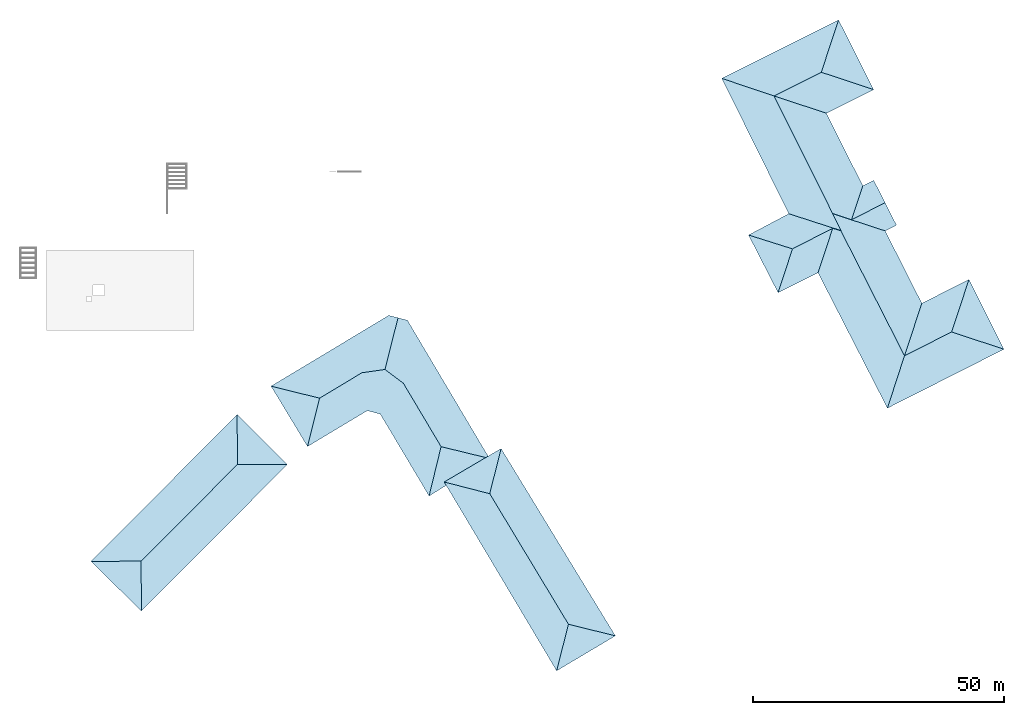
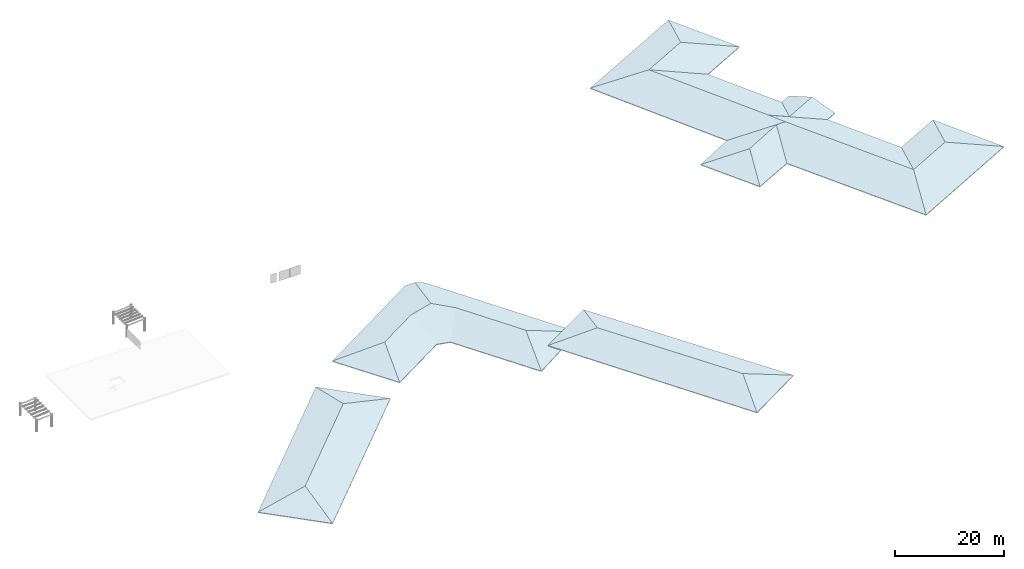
# One storey, part 4 of 4: 4 slabs.
"""IFC2X3 building model written with IfcOpenShell, lengths in metres."""

import ifcopenshell
import ifcopenshell.guid

model = None  # the IFC model being written
_history = None  # IfcOwnerHistory: only IFC2X3 demands one
_inside = {}  # id of a spatial element -> (the spatial element, [elements in it])
_under = {}  # id of a project, library or spatial element -> (it, [spatial elements below it])
_declared = {}  # id of a project -> (the project, [libraries it declares])
_typed = {}  # id of a type object -> (the type object, [elements of that type])
_made_of = {}  # id of a material, layer set ... -> (it, [elements and type objects made of it])


def new_model(schema):
    """Start an empty IFC model of exactly this schema.

    Asked for "IFC4X3", IfcOpenShell would pick the latest addendum, in which some entities
    have other attributes; the version numbers below select the first issue.
    IFC2X3 requires an IfcOwnerHistory on every rooted entity: one is made here for all.
    """
    global model, _history
    if schema == "IFC4X3":
        model = ifcopenshell.file(schema_version=(4, 3, 0, 0))
    else:
        model = ifcopenshell.file(schema=schema)
    _inside.clear()
    _under.clear()
    _declared.clear()
    _typed.clear()
    _made_of.clear()
    _history = None
    if model.schema == "IFC2X3":
        org = make("IfcOrganization", Name="unknown")
        user = make(
            "IfcPersonAndOrganization",
            ThePerson=make("IfcPerson", FamilyName="unknown"),
            TheOrganization=org,
        )
        app = make(
            "IfcApplication",
            ApplicationDeveloper=org,
            Version="unknown",
            ApplicationFullName="unknown",
            ApplicationIdentifier="unknown",
        )
        _history = make(
            "IfcOwnerHistory",
            OwningUser=user,
            OwningApplication=app,
            ChangeAction="ADDED",
            CreationDate=0,
        )
    return model


def make(cls, **values):
    """One entity of the class cls with the attributes given. An attribute that is None is left unset."""
    return model.create_entity(
        cls, **{name: value for name, value in values.items() if value is not None}
    )


def entity(cls, *values):
    """Any entity or typed value of the class cls, its attributes in the order of the schema. None: left unset."""
    e = model.create_entity(cls)
    for i, value in enumerate(values):
        if value is not None:
            e[i] = value
    return e


def rooted(cls, **values):
    """An entity with a GlobalId (a new one), such as an element, a storey or a relation."""
    return make(cls, GlobalId=ifcopenshell.guid.new(), OwnerHistory=_history, **values)


def si_unit(unit_type, name, prefix=None):
    """IfcSIUnit, for example si_unit("LENGTHUNIT", "METRE", prefix="MILLI")."""
    return make("IfcSIUnit", UnitType=unit_type, Prefix=prefix, Name=name)


def converted_unit(unit_type, name, factor, base, dimensions=None, offset=None):
    """IfcConversionBasedUnit, such as the inch: factor (a typed value) times the base unit."""
    return make(
        "IfcConversionBasedUnit"
        if offset is None
        else "IfcConversionBasedUnitWithOffset",
        ConversionOffset=offset,
        Dimensions=None
        if dimensions is None
        else entity("IfcDimensionalExponents", *dimensions),
        UnitType=unit_type,
        Name=name,
        ConversionFactor=make(
            "IfcMeasureWithUnit", ValueComponent=factor, UnitComponent=base
        ),
    )


def derived_unit(unit_type, elements):
    """IfcDerivedUnit: a product of units, each with its exponent."""
    return make(
        "IfcDerivedUnit",
        Elements=[
            make("IfcDerivedUnitElement", Unit=unit, Exponent=power)
            for unit, power in elements
        ],
        UnitType=unit_type,
    )


def money_unit(currency):
    """IfcMonetaryUnit."""
    return make("IfcMonetaryUnit", Currency=currency)


def assignment(units):
    """IfcUnitAssignment: the units of a project."""
    return None if units is None else make("IfcUnitAssignment", Units=units)


def point(xyz):
    """IfcCartesianPoint."""
    return None if xyz is None else make("IfcCartesianPoint", Coordinates=xyz)


def direction(xyz):
    """IfcDirection."""
    return None if xyz is None else make("IfcDirection", DirectionRatios=xyz)


def frame(location, z_axis=None, x_axis=None):
    """IfcAxis2Placement3D, a coordinate frame: its origin and axes. An axis left out is left unset."""
    return make(
        "IfcAxis2Placement3D",
        Location=point(location),
        Axis=direction(z_axis),
        RefDirection=direction(x_axis),
    )


def origin_with_axes():
    """The frame at (0, 0, 0) with the z axis (0, 0, 1) and the x axis (1, 0, 0) written out."""
    return frame((0.0, 0.0, 0.0), z_axis=(0.0, 0.0, 1.0), x_axis=(1.0, 0.0, 0.0))


def place(relative_to, where):
    """IfcLocalPlacement: puts the frame where relative to a parent placement (None: the world)."""
    return make(
        "IfcLocalPlacement", PlacementRelTo=relative_to, RelativePlacement=where
    )


def context(
    kind, dimensions, precision=None, world=None, true_north=None, identifier=None
):
    """IfcGeometricRepresentationContext, for example the 3D "Model" context."""
    return make(
        "IfcGeometricRepresentationContext",
        ContextIdentifier=identifier,
        ContextType=kind,
        CoordinateSpaceDimension=dimensions,
        Precision=precision,
        WorldCoordinateSystem=world,
        TrueNorth=true_north,
    )


def subcontext(parent, identifier, kind, view, scale=None):
    """IfcGeometricRepresentationSubContext, for example "Body" below "Model"."""
    return make(
        "IfcGeometricRepresentationSubContext",
        ContextIdentifier=identifier,
        ContextType=kind,
        ParentContext=parent,
        TargetScale=scale,
        TargetView=view,
    )


def project(units=None, contexts=None):
    """IfcProject with its units and contexts."""
    return rooted(
        "IfcProject",
        Name="project",
        RepresentationContexts=contexts,
        UnitsInContext=assignment(units),
    )


def spatial(cls, under=None, at=None, **own):
    """A site, building, storey or space (cls), placed at a placement, below another one or the project."""
    s = rooted(cls, ObjectPlacement=at, **own)
    if under is not None:
        _under.setdefault(under.id(), (under, []))[1].append(s)
    return s


def faces_of(points, faces, orient=None, outer=None):
    """IfcFace entities. A face is a list of loops; a loop is a list of indices into points, from 0.

    orient and outer hold one flag for each loop. By default every Orientation is true, the
    first loop of a face is its IfcFaceOuterBound and the others are IfcFaceBound.
    """
    made = []
    for i, loops in enumerate(faces):
        bounds = []
        for j, loop in enumerate(loops):
            is_outer = j == 0 if outer is None else outer[i][j]
            bounds.append(
                make(
                    "IfcFaceOuterBound" if is_outer else "IfcFaceBound",
                    Bound=make("IfcPolyLoop", Polygon=[points[k] for k in loop]),
                    Orientation=True if orient is None else orient[i][j],
                )
            )
        made.append(make("IfcFace", Bounds=bounds))
    return made


def faceted_brep(points, faces, orient=None, outer=None, voids=None):
    """IfcFacetedBrep: a solid bounded by flat faces; with voids (closed shells), ...WithVoids."""
    shared = [point(p) for p in points]
    hull = make("IfcClosedShell", CfsFaces=faces_of(shared, faces, orient, outer))
    if voids is None:
        return make("IfcFacetedBrep", Outer=hull)
    return make(
        "IfcFacetedBrepWithVoids",
        Outer=hull,
        Voids=[
            make(cls, CfsFaces=faces_of(shared, fs, o, b)) for cls, fs, o, b in voids
        ],
    )


def shape(context_of_items, identifier, shape_type, items):
    """IfcShapeRepresentation: the items that make up one representation, for example the "Body"."""
    return make(
        "IfcShapeRepresentation",
        ContextOfItems=context_of_items,
        RepresentationIdentifier=identifier,
        RepresentationType=shape_type,
        Items=items,
    )


def material(Name=None, Category=None):
    """IfcMaterial."""
    return make("IfcMaterial", Name=Name, Category=Category)


def material_list(materials):
    """IfcMaterialList."""
    return make("IfcMaterialList", Materials=materials)


def made_of(thing, what):
    """Note that an element or type object is made of a material, layer set ...; save() writes the relation."""
    if what is not None:
        _made_of.setdefault(what.id(), (what, []))[1].append(thing)
    return thing


def type_object(cls, material=None, **own):
    """A type object (cls), such as IfcWallType, which elements share."""
    return made_of(rooted(cls, **own), material)


def element(
    cls,
    number,
    at=None,
    inside=None,
    cuts=None,
    type_object=None,
    material=None,
    context=None,
    identifier="Body",
    shape_type=None,
    held_by="IfcProductDefinitionShape",
    body=None,
    shapes=None,
    **own,
):
    """One element of the class cls, such as IfcWall. Its Tag is "e" and its number.

    at: its placement. inside: the storey or other place that contains it. cuts: it is an
    opening in that element (IfcRelVoidsElement). A single representation is given by context,
    identifier, shape_type and body (its items); several are given by shapes. held_by: the class
    of the entity that holds the representations. save() writes the other relations.
    """
    e = rooted(cls, Tag="e%d" % number, ObjectPlacement=at, **own)
    if body is not None:
        shapes = [shape(context, identifier, shape_type, body)]
    if shapes is not None:
        e.Representation = make(held_by, Representations=shapes)
    if inside is not None:
        _inside.setdefault(inside.id(), (inside, []))[1].append(e)
    if cuts is not None:
        rooted(
            "IfcRelVoidsElement", RelatingBuildingElement=cuts, RelatedOpeningElement=e
        )
    if type_object is not None:
        _typed.setdefault(type_object.id(), (type_object, []))[1].append(e)
    return made_of(e, material)


def aggregate(whole, parts):
    """IfcRelAggregates: a whole, such as a stair, and the parts it consists of."""
    return rooted("IfcRelAggregates", RelatingObject=whole, RelatedObjects=parts)


def save(model, path):
    """Write the relations noted so far, then the file.

    IfcRelAggregates (storeys below a building ...), IfcRelContainedInSpatialStructure (elements
    in a storey), IfcRelDefinesByType, IfcRelAssociatesMaterial and IfcRelDeclares: one each for
    every whole, place, type object, material and project.
    """
    for whole, parts in _under.values():
        aggregate(whole, parts)
    for where, things in _inside.values():
        rooted(
            "IfcRelContainedInSpatialStructure",
            RelatedElements=things,
            RelatingStructure=where,
        )
    for kind, things in _typed.values():
        rooted("IfcRelDefinesByType", RelatedObjects=things, RelatingType=kind)
    for what, things in _made_of.values():
        rooted("IfcRelAssociatesMaterial", RelatedObjects=things, RelatingMaterial=what)
    for by, libraries in _declared.values():
        rooted("IfcRelDeclares", RelatingContext=by, RelatedDefinitions=libraries)
    model.write(path)


model = new_model("IFC2X3")

# Units and contexts
model_context = context("Model", 3, precision=1e-05, world=origin_with_axes(), true_north=direction((0.0, 1.0)))
body_context = subcontext(model_context, "Body", "Model", "MODEL_VIEW")
ifc_project = project(units=[si_unit("LENGTHUNIT", "METRE"), si_unit("AREAUNIT", "SQUARE_METRE"), si_unit("VOLUMEUNIT", "CUBIC_METRE"), converted_unit("PLANEANGLEUNIT", "DEGREE", entity("IfcPlaneAngleMeasure", 0.0174532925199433), si_unit("PLANEANGLEUNIT", "RADIAN"), dimensions=[0, 0, 0, 0, 0, 0, 0]), money_unit("EUR"), converted_unit("TIMEUNIT", "Year", entity("IfcTimeMeasure", 31557600.0), si_unit("TIMEUNIT", "SECOND"), dimensions=[0, 0, 1, 0, 0, 0, 0]), si_unit("MASSUNIT", "GRAM", prefix="KILO"), si_unit("THERMODYNAMICTEMPERATUREUNIT", "DEGREE_CELSIUS"), si_unit("LUMINOUSINTENSITYUNIT", "LUMEN"), si_unit("ENERGYUNIT", "JOULE", prefix="MEGA"), derived_unit("THERMALCONDUCTANCEUNIT", [(si_unit("POWERUNIT", "WATT"), 1), (si_unit("LENGTHUNIT", "METRE"), -1), (si_unit("THERMODYNAMICTEMPERATUREUNIT", "KELVIN"), -1)]), derived_unit("SPECIFICHEATCAPACITYUNIT", [(si_unit("ENERGYUNIT", "JOULE"), 1), (si_unit("MASSUNIT", "GRAM", prefix="KILO"), -1), (si_unit("THERMODYNAMICTEMPERATUREUNIT", "KELVIN"), -1)]), derived_unit("MASSDENSITYUNIT", [(si_unit("MASSUNIT", "GRAM", prefix="KILO"), 1), (si_unit("VOLUMEUNIT", "CUBIC_METRE"), -1)])], contexts=[model_context])

# Site, building, storey
site_placement = place(None, origin_with_axes())
site = spatial("IfcSite", under=ifc_project, at=site_placement, Name="Site", CompositionType="ELEMENT")
building_placement = place(site_placement, origin_with_axes())
building = spatial("IfcBuilding", under=site, at=building_placement, Name="Bâtiment", CompositionType="ELEMENT")
storey_placement = place(building_placement, frame((0.0, 0.0, 10.12), z_axis=(0.0, 0.0, 1.0), x_axis=(1.0, 0.0, 0.0)))
storey = spatial("IfcBuildingStorey", under=building, at=storey_placement, Name="Toiture", CompositionType="ELEMENT", Elevation=10.12)

# Slabs
ifc_material_1 = material(Name="*TUILES")
ifc_material_2 = material(Name="*BOIS - LATTAGE OU LITEAUX")
ifc_material_3 = material(Name="*BOIS SOLIVAGE")
ifc_material_list = material_list([ifc_material_1, ifc_material_2, ifc_material_3])
slab_type = type_object("IfcSlabType", Name="*Toiture TUILES 150", PredefinedType="ROOF")
slab_1_placement = place(storey_placement, frame((187.5987816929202, -3.934984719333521, -6.700573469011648), z_axis=(0.0, 0.0, 1.0), x_axis=(1.0, 0.0, 0.0)))
element("IfcSlab", 1, at=slab_1_placement, inside=storey, type_object=slab_type, material=ifc_material_list, Name="Toit-07", PredefinedType="ROOF", context=body_context, shape_type="Brep", body=[
    faceted_brep([(28.12185349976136, -26.93794132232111, 0.02673475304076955), (28.12185349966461, -26.93794132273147, 0.06885648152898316), (4.886265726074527, -38.68589174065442, 0.0688564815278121), (4.88626572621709, -38.68589174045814, 0.02673475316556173), (21.13424645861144, -13.04589610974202, 0.02673475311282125), (21.13424645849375, -13.04589611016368, 0.06885648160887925), (17.68040840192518, -23.49722569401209, 2.636858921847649), (8.298888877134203, -28.2305140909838, 2.639810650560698), (8.28837045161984, -28.2270611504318, 2.642393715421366), (-8.942944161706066, -11.70871163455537, 0.06885648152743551), (-8.94294416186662, -11.70871163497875, 0.02673475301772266), (17.68040840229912, -23.49722569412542, 2.594737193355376), (8.288370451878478, -28.2270611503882, 2.600271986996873), (8.298888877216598, -28.23051409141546, 2.597688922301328), (11.74101740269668, -17.77506554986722, 0.02673475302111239), (11.74101740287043, -17.77506555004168, 0.06885648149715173), (4.442034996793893, -3.345124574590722, 0.06885648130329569), (-6.057453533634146, 0.08561882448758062, 2.649651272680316), (-4.368796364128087, -3.289682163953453, 2.65514156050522), (-4.384728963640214, -3.339757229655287, 2.667291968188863), (-6.018102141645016, -2.824915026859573, 2.265134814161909), (-16.91163711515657, -15.66658904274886, 0.06885648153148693), (-16.91163711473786, -15.66658904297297, 0.02673475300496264), (-6.018102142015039, -2.824915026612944, 2.223013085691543), (-4.384728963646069, -3.339757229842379, 2.625170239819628), (-4.368796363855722, -3.289682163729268, 2.613019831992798), (-6.057453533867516, 0.08561882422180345, 2.607529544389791), (4.442034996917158, -3.34512457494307, 0.02673475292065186), (6.688590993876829, -2.201496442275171, 0.0688564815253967), (4.427297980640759, 2.260066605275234, 1.719480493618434), (-2.267573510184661, -1.113651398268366, 1.729586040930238), (-6.04339473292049, 0.1280106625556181, 2.660013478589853), (-17.70504834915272, 23.54788118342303, 2.638264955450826), (-28.12185349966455, 27.04370954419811, 0.06885648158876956), (-14.77646655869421, 0.07236630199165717, 0.06885648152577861), (-22.79881880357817, -4.169737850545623, 0.06885648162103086), (-14.03456458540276, -6.934372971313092, 2.227347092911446), (-22.79881880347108, -4.169737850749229, 0.02673475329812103), (-14.0345645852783, -6.934372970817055, 2.185225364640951), (-14.77646655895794, 0.07236630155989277, 0.02673475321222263), (-28.12185349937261, 27.04370954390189, 0.02673475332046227), (-17.70504834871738, 23.54788118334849, 2.596143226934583), (-6.04339473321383, 0.1280106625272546, 2.617891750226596), (-2.267573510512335, -1.113651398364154, 1.68746431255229), (4.427278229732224, 2.26005665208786, 1.677358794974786), (6.688571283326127, -2.201506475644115, 0.0267347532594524), (2.165962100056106, 6.72171422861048, 0.06885648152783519), (-0.01873526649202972, 5.631956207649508, 0.068856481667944), (-7.264533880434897, 20.09214588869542, 0.06885648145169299), (-17.70201944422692, 23.5569826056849, 2.636025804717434), (-8.299488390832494, 28.26826813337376, 2.633419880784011), (-4.843385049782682, 38.68589174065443, 0.06885648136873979), (-4.843385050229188, 38.68589174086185, 0.02673475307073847), (-8.299488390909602, 28.26826813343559, 2.591298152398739), (-17.70201944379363, 23.55698260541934, 2.593904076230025), (-7.264533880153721, 20.09214588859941, 0.02673475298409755), (-0.01873526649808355, 5.631956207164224, 0.02673475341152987), (2.165962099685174, 6.721714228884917, 0.02673475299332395), (4.427297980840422, 2.260066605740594, 1.677358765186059), (2.140405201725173, 24.81347617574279, 0.06885648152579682), (2.140405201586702, 24.81347617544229, 0.02673475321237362)], [[[0, 1, 2, 3]], [[1, 0, 4, 5]], [[1, 6, 7, 8, 2]], [[3, 2, 9, 10]], [[11, 0, 3, 12, 13]], [[0, 11, 4]], [[5, 4, 14, 15]], [[6, 1, 5]], [[6, 5, 15, 7]], [[7, 15, 16, 17, 18, 19, 8]], [[2, 8, 19, 20, 9]], [[10, 9, 21, 22]], [[12, 3, 10, 23, 24]], [[14, 13, 12, 24, 25, 26, 27]], [[4, 11, 13, 14]], [[15, 14, 27, 16]], [[17, 16, 28, 29, 30, 31]], [[18, 17, 31, 32, 33, 34]], [[19, 18, 34, 35, 36, 20]], [[9, 20, 36, 21]], [[22, 21, 35, 37]], [[23, 10, 22, 38]], [[25, 24, 23, 38, 37, 39]], [[26, 25, 39, 40, 41, 42]], [[27, 26, 42, 43, 44, 45]], [[16, 27, 45, 28]], [[44, 29, 28, 45]], [[30, 29, 46, 47]], [[31, 30, 47, 48, 49, 32]], [[50, 51, 33, 32, 49]], [[39, 34, 33, 40]], [[37, 35, 34, 39]], [[21, 36, 35]], [[38, 22, 37]], [[52, 53, 54, 41, 40]], [[43, 42, 41, 54, 55, 56]], [[44, 43, 56, 57, 58]], [[29, 44, 58]], [[57, 46, 29, 58]], [[56, 47, 46, 57]], [[47, 56, 55, 48]], [[59, 50, 49, 48]], [[50, 59, 51]], [[51, 52, 40, 33]], [[60, 53, 52]], [[53, 60, 55, 54]], [[60, 59, 48, 55]], [[59, 60, 52, 51]]]),
    faceted_brep([(28.12185349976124, -26.93794132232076, -0.004856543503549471), (28.12185349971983, -26.93794132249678, 0.02673475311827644), (4.886265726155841, -38.68589174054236, 0.02673475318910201), (4.886265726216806, -38.68589174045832, -0.004856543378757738), (21.13424645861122, -13.04589610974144, -0.004856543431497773), (21.13424645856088, -13.0458961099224, 0.02673475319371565), (17.68040840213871, -23.4972256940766, 2.594737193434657), (8.298888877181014, -28.2305140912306, 2.597688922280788), (8.28837045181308, -28.22706115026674, 2.600271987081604), (-8.942944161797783, -11.7087116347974, 0.02673475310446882), (-8.942944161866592, -11.70871163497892, -0.004856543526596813), (17.68040840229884, -23.49722569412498, 2.563145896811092), (8.288370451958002, -28.22706115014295, 2.56868069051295), (8.298888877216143, -28.23051409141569, 2.566097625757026), (11.74101740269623, -17.77506554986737, -0.004856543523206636), (11.74101740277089, -17.77506554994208, 0.02673475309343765), (4.442034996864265, -3.345124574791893, 0.02673475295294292), (-6.057453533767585, 0.08561882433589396, 2.60752954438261), (-4.368796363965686, -3.289682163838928, 2.613019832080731), (-4.384728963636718, -3.339757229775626, 2.625170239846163), (-6.018102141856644, -2.824915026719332, 2.223013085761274), (-16.9116371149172, -15.66658904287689, 0.02673475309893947), (-16.91163711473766, -15.66658904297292, -0.004856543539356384), (-6.018102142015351, -2.824915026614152, 2.191421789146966), (-4.384728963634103, -3.33975722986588, 2.5935789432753), (-4.36879636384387, -3.289682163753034, 2.581428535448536), (-6.057453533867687, 0.08561882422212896, 2.575938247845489), (4.442034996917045, -3.345124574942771, -0.004856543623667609), (6.688571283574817, -2.201506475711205, 0.02673475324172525), (4.427278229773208, 2.260056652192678, 1.6773587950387), (-2.267573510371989, -1.113651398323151, 1.687464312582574), (-6.043394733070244, 0.1280106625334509, 2.617891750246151), (-17.70504834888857, 23.54788118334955, 2.596143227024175), (-28.121853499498, 27.04370954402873, 0.02673475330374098), (-14.77646655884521, 0.07236630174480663, 0.02673475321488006), (-22.79881880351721, -4.169737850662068, 0.02673475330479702), (-14.03456458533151, -6.934372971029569, 2.185225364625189), (-22.79881880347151, -4.169737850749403, -0.004856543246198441), (-14.03456458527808, -6.934372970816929, 2.15363406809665), (-14.77646655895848, 0.07236630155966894, -0.004856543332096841), (-28.12185349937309, 27.0437095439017, -0.004856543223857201), (-17.70504834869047, 23.54788118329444, 2.56455193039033), (-6.043394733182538, 0.1280106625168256, 2.586300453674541), (-2.267573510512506, -1.113651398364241, 1.655873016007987), (4.427263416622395, 2.260049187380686, 1.645767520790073), (6.688556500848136, -2.201514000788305, -0.004856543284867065), (4.427297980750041, 2.260066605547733, 1.677358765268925), (2.165962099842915, 6.7217142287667, 0.02673475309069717), (-0.01873526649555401, 5.631956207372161, 0.02673475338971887), (-7.264533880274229, 20.09214588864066, 0.02673475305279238), (-17.70201944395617, 23.55698260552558, 2.59390407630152), (-8.299488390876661, 28.26826813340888, 2.59129815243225), (-4.843385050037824, 38.68589174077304, 0.02673475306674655), (-4.843385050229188, 38.685891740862, -0.004856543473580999), (-8.2994883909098, 28.26826813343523, 2.559706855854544), (-17.70201944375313, 23.55698260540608, 2.562312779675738), (-7.264533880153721, 20.0921458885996, -0.004856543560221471), (-0.01873526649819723, 5.63195620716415, -0.004856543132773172), (2.165962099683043, 6.721714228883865, -0.004856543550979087), (4.42729798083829, 2.260066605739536, 1.645767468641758), (2.140405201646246, 24.81347617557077, 0.02673475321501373), (2.140405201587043, 24.81347617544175, -0.004856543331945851)], [[[0, 1, 2, 3]], [[1, 0, 4, 5]], [[1, 6, 7, 8, 2]], [[3, 2, 9, 10]], [[11, 0, 3, 12, 13]], [[0, 11, 4]], [[5, 4, 14, 15]], [[6, 1, 5]], [[6, 5, 15, 7]], [[7, 15, 16, 17, 18, 19, 8]], [[2, 8, 19, 20, 9]], [[10, 9, 21, 22]], [[12, 3, 10, 23, 24]], [[14, 13, 12, 24, 25, 26, 27]], [[4, 11, 13, 14]], [[15, 14, 27, 16]], [[17, 16, 28, 29, 30, 31]], [[18, 17, 31, 32, 33, 34]], [[19, 18, 34, 35, 36, 20]], [[9, 20, 36, 21]], [[22, 21, 35, 37]], [[23, 10, 22, 38]], [[25, 24, 23, 38, 37, 39]], [[26, 25, 39, 40, 41, 42]], [[27, 26, 42, 43, 44, 45]], [[16, 27, 45, 28]], [[44, 29, 28, 45]], [[30, 29, 46, 47, 48]], [[31, 30, 48, 49, 50, 32]], [[51, 52, 33, 32, 50]], [[39, 34, 33, 40]], [[37, 35, 34, 39]], [[21, 36, 35]], [[38, 22, 37]], [[53, 54, 55, 41, 40]], [[43, 42, 41, 55, 56, 57]], [[44, 43, 57, 58, 59]], [[29, 44, 59, 46]], [[47, 46, 59, 58]], [[57, 48, 47, 58]], [[48, 57, 56, 49]], [[60, 51, 50, 49]], [[51, 60, 52]], [[52, 53, 40, 33]], [[61, 54, 53]], [[54, 61, 56, 55]], [[61, 60, 49, 56]], [[60, 61, 53, 52]]]),
    faceted_brep([(28.12185349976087, -26.93794132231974, -0.08910000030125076), (28.12185349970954, -26.93794132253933, -0.004856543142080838), (4.886265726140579, -38.68589174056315, -0.004856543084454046), (4.886265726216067, -38.68589174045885, -0.08910000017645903), (21.13424645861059, -13.04589610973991, -0.08910000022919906), (21.13424645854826, -13.04589610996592, -0.004856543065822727), (17.6804084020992, -23.49722569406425, 2.563145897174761), (8.298888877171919, -28.23051409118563, 2.56609762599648), (8.288370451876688, -28.22706114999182, 2.568680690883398), (-8.942944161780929, -11.70871163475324, -0.004856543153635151), (-8.942944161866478, -11.70871163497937, -0.0891000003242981), (17.6804084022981, -23.49722569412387, 2.478902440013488), (8.288370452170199, -28.22706114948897, 2.48443723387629), (8.298888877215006, -28.23051409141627, 2.481854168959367), (11.74101740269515, -17.77506554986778, -0.08910000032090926), (11.74101740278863, -17.77506554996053, -0.004856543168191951), (4.442034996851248, -3.345124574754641, -0.004856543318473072), (-6.057453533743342, 0.0856188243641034, 2.575938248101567), (-4.368796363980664, -3.2896821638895, 2.581428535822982), (-4.384728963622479, -3.339757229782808, 2.593578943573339), (-6.018102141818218, -2.824915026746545, 2.191421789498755), (-16.91163711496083, -15.66658904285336, -0.004856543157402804), (-16.91163711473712, -15.66658904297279, -0.08910000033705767), (-6.018102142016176, -2.82491502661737, 2.107178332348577), (-4.384728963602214, -3.339757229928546, 2.509335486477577), (-4.368796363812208, -3.289682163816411, 2.497185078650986), (-6.057453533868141, 0.08561882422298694, 2.491694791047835), (4.442034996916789, -3.345124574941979, -0.08910000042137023), (6.688556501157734, -2.201514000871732, -0.004856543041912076), (4.427263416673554, 2.260049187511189, 1.645767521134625), (-2.267573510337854, -1.113651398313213, 1.655873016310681), (-6.043394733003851, 0.1280106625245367, 2.586300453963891), (-17.70504834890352, 23.54788118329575, 2.564551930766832), (-28.12185349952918, 27.04370954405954, -0.004856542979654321), (-14.77646655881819, 0.0723663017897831, -0.004856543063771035), (-22.79881880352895, -4.169737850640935, -0.004856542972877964), (-14.03456458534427, -6.934372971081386, 2.153634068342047), (-22.79881880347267, -4.169737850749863, -0.08910000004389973), (-14.03456458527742, -6.934372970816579, 2.069390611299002), (-14.77646655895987, 0.07236630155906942, -0.08910000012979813), (-28.12185349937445, 27.04370954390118, -0.08910000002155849), (-17.7050483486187, 23.5478811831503, 2.480308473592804), (-6.043394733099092, 0.1280106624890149, 2.50205699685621), (-2.267573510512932, -1.113651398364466, 1.571629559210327), (4.427223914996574, 2.260029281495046, 1.561524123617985), (6.688517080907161, -2.201534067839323, -0.08910000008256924), (4.427297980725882, 2.260066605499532, 1.645767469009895), (2.165962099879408, 6.721714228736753, -0.004856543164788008), (-0.01873526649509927, 5.631956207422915, -0.00485654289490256), (-7.264533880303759, 20.09214588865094, -0.004856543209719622), (-17.70201944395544, 23.55698260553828, 2.562312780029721), (-8.299488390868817, 28.26826813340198, 2.559706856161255), (-4.84338504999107, 38.68589174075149, -0.004856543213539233), (-4.843385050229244, 38.68589174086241, -0.08910000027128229), (-8.299488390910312, 28.26826813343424, 2.475463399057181), (-17.70201944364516, 23.55698260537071, 2.478069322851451), (-7.264533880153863, 20.09214588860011, -0.08910000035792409), (-0.01873526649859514, 5.631956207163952, -0.08909999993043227), (2.165962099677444, 6.721714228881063, -0.08910000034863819), (4.427297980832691, 2.260066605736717, 1.561524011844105), (2.14040520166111, 24.81347617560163, -0.004856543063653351), (2.140405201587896, 24.81347617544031, -0.08910000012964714)], [[[0, 1, 2, 3]], [[1, 0, 4, 5]], [[1, 6, 7, 8, 2]], [[3, 2, 9, 10]], [[11, 0, 3, 12, 13]], [[0, 11, 4]], [[5, 4, 14, 15]], [[6, 1, 5]], [[6, 5, 15, 7]], [[7, 15, 16, 17, 18, 19, 8]], [[2, 8, 19, 20, 9]], [[10, 9, 21, 22]], [[12, 3, 10, 23, 24]], [[14, 13, 12, 24, 25, 26, 27]], [[4, 11, 13, 14]], [[15, 14, 27, 16]], [[17, 16, 28, 29, 30, 31]], [[18, 17, 31, 32, 33, 34]], [[19, 18, 34, 35, 36, 20]], [[9, 20, 36, 21]], [[22, 21, 35, 37]], [[23, 10, 22, 38]], [[25, 24, 23, 38, 37, 39]], [[26, 25, 39, 40, 41, 42]], [[27, 26, 42, 43, 44, 45]], [[16, 27, 45, 28]], [[44, 29, 28, 45]], [[30, 29, 46, 47, 48]], [[31, 30, 48, 49, 50, 32]], [[51, 52, 33, 32, 50]], [[39, 34, 33, 40]], [[37, 35, 34, 39]], [[21, 36, 35]], [[38, 22, 37]], [[53, 54, 55, 41, 40]], [[43, 42, 41, 55, 56, 57]], [[44, 43, 57, 58, 59]], [[29, 44, 59, 46]], [[47, 46, 59, 58]], [[57, 48, 47, 58]], [[48, 57, 56, 49]], [[60, 51, 50, 49]], [[51, 60, 52]], [[52, 53, 40, 33]], [[61, 54, 53]], [[54, 61, 56, 55]], [[61, 60, 49, 56]], [[60, 61, 53, 52]]]),
])
slab_2_placement = place(storey_placement, frame((91.40037691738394, -42.13459807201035, 1.0), z_axis=(0.0, 0.0, 1.0), x_axis=(1.0, 0.0, 0.0)))
element("IfcSlab", 2, at=slab_2_placement, inside=storey, type_object=slab_type, material=ifc_material_list, Name="Toit-07", PredefinedType="ROOF", context=body_context, shape_type="Brep", body=[
    faceted_brep([(12.12356937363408, -8.155238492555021, 2.40909374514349), (21.76715092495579, -10.50657812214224, 0.06885648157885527), (5.401184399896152, 17.05714351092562, 0.06885648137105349), (3.537938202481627, 17.5269253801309, 0.518408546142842), (0.9444830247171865, 7.238065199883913, 2.987751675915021), (4.600409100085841, 4.494828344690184, 2.412549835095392), (9.731412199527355, -17.99664883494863, 0.06885648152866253), (21.76715092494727, -10.50657812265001, 0.02673475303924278), (5.401184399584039, 17.05714351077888, 0.02673475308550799), (3.537938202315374, 17.52692538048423, 0.4762868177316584), (1.674923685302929, 17.99664883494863, 0.06885648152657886), (-21.76715092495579, 3.908309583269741, 0.06885648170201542), (-12.09814313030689, 1.510280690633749, 2.390757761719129), (-3.674730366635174, 6.566673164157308, 2.392441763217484), (-2.580794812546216, -0.9872254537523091, 0.06885648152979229), (-0.004864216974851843, -1.651749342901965, 0.06885648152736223), (9.731412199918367, -17.99664883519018, 0.02673475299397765), (12.12356937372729, -8.155238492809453, 2.366972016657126), (4.600409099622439, 4.494828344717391, 2.370428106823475), (0.9444830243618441, 7.238065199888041, 2.945629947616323), (1.674923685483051, 17.99664883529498, 0.02673475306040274), (-21.76715092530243, 3.908309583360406, 0.02673475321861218), (-14.49444157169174, -8.130314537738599, 0.06885648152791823), (-0.004864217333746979, -1.651749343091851, 0.02673475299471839), (-2.580794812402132, -0.9872254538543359, 0.02673475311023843), (-3.674730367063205, 6.566673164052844, 2.350320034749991), (-12.09814313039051, 1.510280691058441, 2.348636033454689), (-14.49444157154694, -8.130314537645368, 0.02673475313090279)], [[[0, 1, 2, 3, 4, 5]], [[1, 0, 6]], [[1, 7, 8, 2]], [[9, 3, 2, 8]], [[4, 3, 10, 11, 12, 13]], [[5, 4, 13, 14, 15]], [[6, 0, 5, 15]], [[7, 1, 6, 16]], [[7, 17, 18, 19, 9, 8]], [[3, 9, 20, 10]], [[21, 11, 10, 20]], [[22, 12, 11]], [[14, 13, 12, 22]], [[23, 15, 14, 24]], [[16, 6, 15, 23]], [[17, 7, 16]], [[17, 16, 23, 18]], [[19, 18, 23, 24, 25]], [[9, 19, 25, 26, 21, 20]], [[27, 22, 11, 21]], [[24, 14, 22, 27]], [[25, 24, 27, 26]], [[26, 27, 21]]]),
    faceted_brep([(12.12356937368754, -8.155238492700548, 2.366972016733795), (21.76715092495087, -10.50657812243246, 0.02673475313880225), (5.401184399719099, 17.05714351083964, 0.02673475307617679), (3.537938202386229, 17.52692538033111, 0.4762868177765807), (0.9444830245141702, 7.238065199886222, 2.945629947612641), (4.600409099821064, 4.494828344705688, 2.370428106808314), (9.731412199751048, -17.99664883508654, 0.02673475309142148), (21.76715092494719, -10.50657812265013, -0.004856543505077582), (5.401184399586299, 17.05714351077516, -0.004856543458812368), (3.537938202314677, 17.52692538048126, 0.4446955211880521), (1.674923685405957, 17.99664883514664, 0.02673475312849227), (-21.76715092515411, 3.908309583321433, 0.02673475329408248), (-12.09814313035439, 1.510280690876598, 2.348636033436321), (-3.674730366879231, 6.566673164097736, 2.350320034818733), (-2.580794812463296, -0.9872254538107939, 0.02673475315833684), (-0.004864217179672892, -1.651749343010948, 0.02673475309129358), (9.731412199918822, -17.99664883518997, -0.004856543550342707), (12.12356937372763, -8.155238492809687, 2.335380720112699), (4.600409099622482, 4.494828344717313, 2.338836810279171), (0.9444830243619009, 7.238065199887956, 2.914038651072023), (1.674923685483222, 17.99664883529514, -0.004856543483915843), (-21.76715092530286, 3.908309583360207, -0.004856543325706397), (-14.49444157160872, -8.130314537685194, 0.02673475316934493), (-0.00486421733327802, -1.651749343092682, -0.00485654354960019), (-2.580794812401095, -0.9872254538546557, -0.004856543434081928), (-3.674730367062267, 6.566673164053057, 2.318728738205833), (-12.09814313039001, 1.510280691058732, 2.317044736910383), (-14.49444157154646, -8.130314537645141, -0.004856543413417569)], [[[0, 1, 2, 3, 4, 5]], [[1, 0, 6]], [[1, 7, 8, 2]], [[9, 3, 2, 8]], [[4, 3, 10, 11, 12, 13]], [[5, 4, 13, 14, 15]], [[6, 0, 5, 15]], [[7, 1, 6, 16]], [[7, 17, 18, 19, 9, 8]], [[3, 9, 20, 10]], [[21, 11, 10, 20]], [[22, 12, 11]], [[14, 13, 12, 22]], [[23, 15, 14, 24]], [[16, 6, 15, 23]], [[17, 7, 16]], [[17, 16, 23, 18]], [[19, 18, 23, 24, 25]], [[9, 19, 25, 26, 21, 20]], [[27, 22, 11, 21]], [[24, 14, 22, 27]], [[25, 24, 27, 26]], [[26, 27, 21]]]),
    faceted_brep([(12.12356937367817, -8.155238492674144, 2.335380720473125), (21.76715092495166, -10.5065781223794, -0.00485654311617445), (5.401184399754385, 17.05714351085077, -0.004856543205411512), (3.53793820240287, 17.52692538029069, 0.4446955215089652), (0.9444830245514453, 7.238065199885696, 2.914038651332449), (4.60040909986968, 4.494828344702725, 2.338836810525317), (9.731412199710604, -17.99664883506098, -0.004856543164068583), (21.76715092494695, -10.50657812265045, -0.08910000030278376), (5.401184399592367, 17.05714351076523, -0.08910000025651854), (3.537938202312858, 17.52692538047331, 0.3604520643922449), (1.674923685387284, 17.99664883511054, -0.00485654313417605), (-21.76715092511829, 3.908309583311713, -0.004856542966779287), (-12.09814313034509, 1.510280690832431, 2.317044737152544), (-3.674730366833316, 6.566673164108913, 2.318728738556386), (-2.580794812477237, -0.9872254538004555, -0.004856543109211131), (-0.00486421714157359, -1.651749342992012, -0.00485654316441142), (9.73141219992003, -17.99664883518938, -0.08910000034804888), (12.12356937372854, -8.155238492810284, 2.251137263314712), (4.600409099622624, 4.494828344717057, 2.254593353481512), (0.9444830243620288, 7.238065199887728, 2.829795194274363), (1.674923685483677, 17.99664883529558, -0.08910000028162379), (-21.76715092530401, 3.908309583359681, -0.08910000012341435), (-14.49444157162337, -8.130314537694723, -0.004856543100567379), (-0.004864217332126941, -1.651749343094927, -0.08910000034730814), (-2.580794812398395, -0.987225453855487, -0.08910000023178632), (-3.674730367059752, 6.566673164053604, 2.234485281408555), (-12.09814313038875, 1.510280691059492, 2.232801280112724), (-14.49444157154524, -8.13031453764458, -0.08910000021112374)], [[[0, 1, 2, 3, 4, 5]], [[1, 0, 6]], [[1, 7, 8, 2]], [[9, 3, 2, 8]], [[4, 3, 10, 11, 12, 13]], [[5, 4, 13, 14, 15]], [[6, 0, 5, 15]], [[7, 1, 6, 16]], [[7, 17, 18, 19, 9, 8]], [[3, 9, 20, 10]], [[21, 11, 10, 20]], [[22, 12, 11]], [[14, 13, 12, 22]], [[23, 15, 14, 24]], [[16, 6, 15, 23]], [[17, 7, 16]], [[17, 16, 23, 18]], [[19, 18, 23, 24, 25]], [[9, 19, 25, 26, 21, 20]], [[27, 22, 11, 21]], [[24, 14, 22, 27]], [[25, 24, 27, 26]], [[26, 27, 21]]]),
])
slab_3_placement = place(storey_placement, frame((53.32725405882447, -63.47284959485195, 1.0), z_axis=(0.0, 0.0, 1.0), x_axis=(1.0, 0.0, 0.0)))
element("IfcSlab", 3, at=slab_3_placement, inside=storey, type_object=slab_type, material=ifc_material_list, Name="Toit-07", PredefinedType="ROOF", context=body_context, shape_type="Brep", body=[
    faceted_brep([(19.56710214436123, 9.641996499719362, 0.02673475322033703), (19.56710214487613, 9.641996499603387, 0.06885648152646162), (-9.54501377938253, -19.59783185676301, 0.06885648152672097), (-9.545013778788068, -19.59783185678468, 0.02673475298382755), (9.559396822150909, 19.59783185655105, 0.02673475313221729), (9.559396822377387, 19.59783185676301, 0.06885648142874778), (9.584989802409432, 9.618104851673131, 2.397664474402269), (-9.581061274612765, -9.638612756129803, 2.396130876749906), (-19.56710214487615, -9.67646546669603, 0.06885648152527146), (-19.5671021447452, -9.676465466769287, 0.02673475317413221), (9.584989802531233, 9.61810485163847, 2.3555427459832), (-9.581061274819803, -9.638612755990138, 2.354009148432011)], [[[0, 1, 2, 3]], [[1, 0, 4, 5]], [[1, 6, 7, 2]], [[3, 2, 8, 9]], [[10, 0, 3, 11]], [[0, 10, 4]], [[5, 4, 9, 8]], [[6, 1, 5]], [[6, 5, 8, 7]], [[2, 7, 8]], [[11, 3, 9]], [[4, 10, 11, 9]]]),
    faceted_brep([(19.56710214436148, 9.641996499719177, -0.004856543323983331), (19.56710214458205, 9.641996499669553, 0.02673475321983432), (-9.54501377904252, -19.59783185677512, 0.02673475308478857), (-9.545013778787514, -19.5978318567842, -0.00485654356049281), (9.55939682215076, 19.59783185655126, -0.004856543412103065), (9.559396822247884, 19.59783185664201, 0.02673475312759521), (9.584989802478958, 9.618104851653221, 2.355542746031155), (-9.581061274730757, -9.638612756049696, 2.354009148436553), (-19.56710214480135, -9.676465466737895, 0.02673475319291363), (-19.56710214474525, -9.676465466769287, -0.004856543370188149), (9.584989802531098, 9.618104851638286, 2.323951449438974), (-9.581061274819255, -9.638612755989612, 2.322417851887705)], [[[0, 1, 2, 3]], [[1, 0, 4, 5]], [[1, 6, 7, 2]], [[3, 2, 8, 9]], [[10, 0, 3, 11]], [[0, 10, 4]], [[5, 4, 9, 8]], [[6, 1, 5]], [[6, 5, 8, 7]], [[2, 7, 8]], [[11, 3, 9]], [[4, 10, 11, 9]]]),
    faceted_brep([(19.56710214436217, 9.641996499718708, -0.0891000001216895), (19.56710214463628, 9.641996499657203, -0.004856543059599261), (-9.545013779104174, -19.5978318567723, -0.004856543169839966), (-9.54501377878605, -19.59783185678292, -0.08910000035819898), (9.559396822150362, 19.59783185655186, -0.08910000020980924), (9.559396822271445, 19.59783185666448, -0.004856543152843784), (9.584989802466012, 9.61810485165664, 2.323951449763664), (-9.581061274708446, -9.638612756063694, 2.322417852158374), (-19.56710214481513, -9.676465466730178, -0.004856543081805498), (-19.56710214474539, -9.676465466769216, -0.08910000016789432), (9.584989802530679, 9.618104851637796, 2.239707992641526), (-9.581061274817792, -9.638612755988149, 2.238174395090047)], [[[0, 1, 2, 3]], [[1, 0, 4, 5]], [[1, 6, 7, 2]], [[3, 2, 8, 9]], [[10, 0, 3, 11]], [[0, 10, 4]], [[5, 4, 9, 8]], [[6, 1, 5]], [[6, 5, 8, 7]], [[2, 7, 8]], [[11, 3, 9]], [[4, 10, 11, 9]]]),
])
slab_4_placement = place(storey_placement, frame((121.1999436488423, -72.81820900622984, 4.0), z_axis=(0.0, 0.0, 1.0), x_axis=(1.0, 0.0, 0.0)))
element("IfcSlab", 4, at=slab_4_placement, inside=storey, type_object=slab_type, material=ifc_material_list, Name="Toit-08", PredefinedType="ROOF", context=body_context, shape_type="Brep", body=[
    faceted_brep([(7.710193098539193, -12.86318097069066, 2.304886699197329), (17.06319402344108, -15.18160549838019, 0.06885648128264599), (-5.720296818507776, 22.14998347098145, 0.06885648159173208), (-7.977119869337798, 13.15354958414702, 2.251165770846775), (5.355286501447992, -22.14998347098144, 0.06885648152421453), (17.06319402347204, -15.18160549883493, 0.0267347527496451), (-5.720296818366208, 22.14998347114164, 0.02673475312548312), (-17.06319402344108, 15.48468092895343, 0.06885648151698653), (5.355286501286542, -22.14998347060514, 0.02673475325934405), (7.71019309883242, -12.86318097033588, 2.262764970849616), (-7.977119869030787, 13.15354958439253, 2.20904404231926), (-17.06319402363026, 15.4846809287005, 0.02673475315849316)], [[[0, 1, 2, 3]], [[1, 0, 4]], [[1, 5, 6, 2]], [[3, 2, 7]], [[4, 0, 3, 7]], [[5, 1, 4, 8]], [[5, 9, 10, 6]], [[2, 6, 11, 7]], [[8, 4, 7, 11]], [[9, 5, 8]], [[9, 8, 11, 10]], [[6, 10, 11]]]),
    faceted_brep([(7.710193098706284, -12.86318097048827, 2.262764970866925), (17.06319402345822, -15.18160549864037, 0.02673475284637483), (-5.720296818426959, 22.14998347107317, 0.02673475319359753), (-7.977119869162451, 13.15354958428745, 2.209044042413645), (5.35528650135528, -22.14998347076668, 0.02673475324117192), (17.06319402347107, -15.18160549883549, -0.00485654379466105), (-5.720296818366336, 22.14998347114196, -0.004856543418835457), (-17.06319402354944, 15.48468092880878, 0.02673475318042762), (5.355286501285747, -22.14998347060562, -0.0048565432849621), (7.710193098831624, -12.86318097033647, 2.231173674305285), (-7.977119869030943, 13.15354958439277, 2.177452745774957), (-17.06319402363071, 15.48468092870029, -0.004856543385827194)], [[[0, 1, 2, 3]], [[1, 0, 4]], [[1, 5, 6, 2]], [[3, 2, 7]], [[4, 0, 3, 7]], [[5, 1, 4, 8]], [[5, 9, 10, 6]], [[2, 6, 11, 7]], [[8, 4, 7, 11]], [[9, 5, 8]], [[9, 8, 11, 10]], [[6, 10, 11]]]),
    faceted_brep([(7.710193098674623, -12.86318097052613, 2.231173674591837), (17.06319402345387, -15.18160549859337, -0.004856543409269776), (-5.720296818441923, 22.14998347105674, -0.004856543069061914), (-7.97711986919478, 13.15354958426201, 2.177452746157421), (5.355286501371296, -22.14998347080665, -0.004856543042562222), (17.06319402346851, -15.18160549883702, -0.08910000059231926), (-5.720296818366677, 22.14998347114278, -0.0891000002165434), (-17.06319402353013, 15.48468092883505, -0.004856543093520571), (5.355286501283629, -22.14998347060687, -0.08910000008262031), (7.710193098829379, -12.86318097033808, 2.146930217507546), (-7.977119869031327, 13.15354958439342, 2.093209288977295), (-17.06319402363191, 15.48468092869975, -0.08910000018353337)], [[[0, 1, 2, 3]], [[1, 0, 4]], [[1, 5, 6, 2]], [[3, 2, 7]], [[4, 0, 3, 7]], [[5, 1, 4, 8]], [[5, 9, 10, 6]], [[2, 6, 11, 7]], [[8, 4, 7, 11]], [[9, 5, 8]], [[9, 8, 11, 10]], [[6, 10, 11]]]),
])

save(model, "model.ifc")
